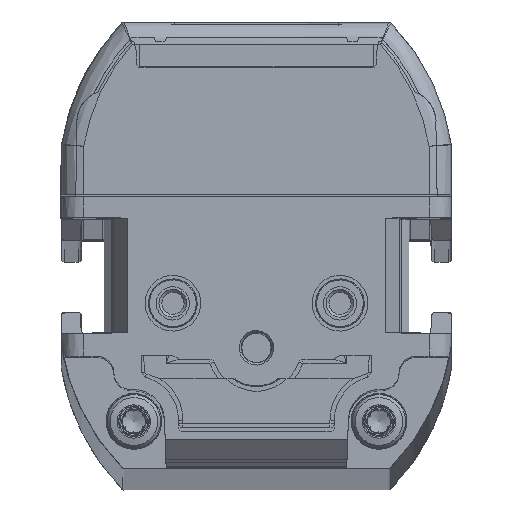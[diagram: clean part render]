
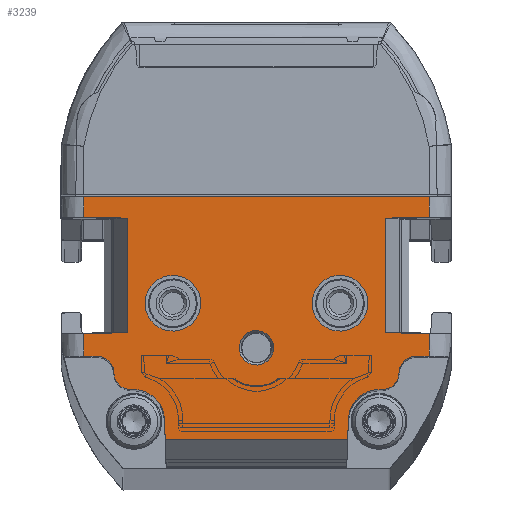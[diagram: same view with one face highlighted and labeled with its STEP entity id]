
A CAD part, top view. The second image highlights one B-rep face of the part: STEP entity #3239.
In plain terms, the highlighted planar face has unit normal (0, 0, 1).
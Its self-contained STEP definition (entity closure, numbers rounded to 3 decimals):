
#1178=FACE_BOUND('',#5343,.T.);
#1179=FACE_BOUND('',#5344,.T.);
#1180=FACE_BOUND('',#5345,.T.);
#1181=FACE_BOUND('',#5346,.T.);
#1900=CIRCLE('',#17502,2.5);
#1901=CIRCLE('',#17504,2.5);
#1902=CIRCLE('',#17506,1.55);
#1905=CIRCLE('',#17576,1.5);
#1906=CIRCLE('',#17577,1.5);
#1907=CIRCLE('',#17578,1.5);
#1908=CIRCLE('',#17579,1.5);
#1909=CIRCLE('',#17580,2.75);
#1910=CIRCLE('',#17581,2.75);
#3239=ADVANCED_FACE('',(#1178,#1179,#1180,#1181),#3754,.T.);
#3754=PLANE('',#17582);
#5343=EDGE_LOOP('',(#9281));
#5344=EDGE_LOOP('',(#9282));
#5345=EDGE_LOOP('',(#9283));
#5346=EDGE_LOOP('',(#9284,#9285,#9286,#9287,#9288,#9289,#9290,#9291,#9292,
#9293,#9294,#9295,#9296,#9297,#9298,#9299,#9300,#9301,#9302,#9303,#9304,
#9305,#9306,#9307,#9308,#9309));
#9281=ORIENTED_EDGE('',*,*,#13579,.T.);
#9282=ORIENTED_EDGE('',*,*,#13578,.F.);
#9283=ORIENTED_EDGE('',*,*,#13577,.F.);
#9284=ORIENTED_EDGE('',*,*,#13699,.F.);
#9285=ORIENTED_EDGE('',*,*,#13700,.T.);
#9286=ORIENTED_EDGE('',*,*,#13701,.T.);
#9287=ORIENTED_EDGE('',*,*,#13702,.T.);
#9288=ORIENTED_EDGE('',*,*,#13630,.T.);
#9289=ORIENTED_EDGE('',*,*,#13576,.T.);
#9290=ORIENTED_EDGE('',*,*,#13573,.T.);
#9291=ORIENTED_EDGE('',*,*,#13572,.T.);
#9292=ORIENTED_EDGE('',*,*,#13698,.T.);
#9293=ORIENTED_EDGE('',*,*,#13703,.F.);
#9294=ORIENTED_EDGE('',*,*,#13704,.F.);
#9295=ORIENTED_EDGE('',*,*,#13705,.F.);
#9296=ORIENTED_EDGE('',*,*,#13692,.T.);
#9297=ORIENTED_EDGE('',*,*,#13568,.F.);
#9298=ORIENTED_EDGE('',*,*,#13564,.T.);
#9299=ORIENTED_EDGE('',*,*,#13563,.F.);
#9300=ORIENTED_EDGE('',*,*,#13603,.T.);
#9301=ORIENTED_EDGE('',*,*,#13706,.F.);
#9302=ORIENTED_EDGE('',*,*,#13707,.T.);
#9303=ORIENTED_EDGE('',*,*,#13708,.T.);
#9304=ORIENTED_EDGE('',*,*,#13709,.F.);
#9305=ORIENTED_EDGE('',*,*,#13710,.F.);
#9306=ORIENTED_EDGE('',*,*,#13711,.F.);
#9307=ORIENTED_EDGE('',*,*,#13611,.T.);
#9308=ORIENTED_EDGE('',*,*,#13712,.F.);
#9309=ORIENTED_EDGE('',*,*,#13713,.F.);
#11499=VERTEX_POINT('',#29891);
#11500=VERTEX_POINT('',#29893);
#11501=VERTEX_POINT('',#29897);
#11502=VERTEX_POINT('',#29901);
#11504=VERTEX_POINT('',#29907);
#11506=VERTEX_POINT('',#29911);
#11507=VERTEX_POINT('',#29915);
#11508=VERTEX_POINT('',#29919);
#11509=VERTEX_POINT('',#29923);
#11510=VERTEX_POINT('',#29926);
#11511=VERTEX_POINT('',#29929);
#11528=VERTEX_POINT('',#30023);
#11533=VERTEX_POINT('',#30037);
#11534=VERTEX_POINT('',#30039);
#11547=VERTEX_POINT('',#30079);
#11581=VERTEX_POINT('',#30332);
#11585=VERTEX_POINT('',#30342);
#11586=VERTEX_POINT('',#30346);
#11587=VERTEX_POINT('',#30347);
#11588=VERTEX_POINT('',#30349);
#11589=VERTEX_POINT('',#30351);
#11590=VERTEX_POINT('',#30354);
#11591=VERTEX_POINT('',#30356);
#11592=VERTEX_POINT('',#30359);
#11593=VERTEX_POINT('',#30361);
#11594=VERTEX_POINT('',#30363);
#11595=VERTEX_POINT('',#30365);
#11596=VERTEX_POINT('',#30367);
#11597=VERTEX_POINT('',#30370);
#13563=EDGE_CURVE('',#11500,#11499,#15088,.T.);
#13564=EDGE_CURVE('',#11501,#11499,#15089,.T.);
#13568=EDGE_CURVE('',#11501,#11502,#15092,.T.);
#13572=EDGE_CURVE('',#11504,#11506,#15095,.T.);
#13573=EDGE_CURVE('',#11507,#11504,#15096,.T.);
#13576=EDGE_CURVE('',#11508,#11507,#15098,.T.);
#13577=EDGE_CURVE('',#11509,#11509,#1900,.T.);
#13578=EDGE_CURVE('',#11510,#11510,#1901,.T.);
#13579=EDGE_CURVE('',#11511,#11511,#1902,.T.);
#13603=EDGE_CURVE('',#11500,#11528,#15113,.T.);
#13611=EDGE_CURVE('',#11533,#11534,#15119,.T.);
#13630=EDGE_CURVE('',#11547,#11508,#15132,.T.);
#13692=EDGE_CURVE('',#11581,#11502,#15175,.T.);
#13698=EDGE_CURVE('',#11506,#11585,#15177,.T.);
#13699=EDGE_CURVE('',#11586,#11587,#15178,.T.);
#13700=EDGE_CURVE('',#11586,#11588,#1905,.T.);
#13701=EDGE_CURVE('',#11588,#11589,#1906,.T.);
#13702=EDGE_CURVE('',#11589,#11547,#15179,.T.);
#13703=EDGE_CURVE('',#11590,#11585,#15180,.T.);
#13704=EDGE_CURVE('',#11591,#11590,#15181,.T.);
#13705=EDGE_CURVE('',#11581,#11591,#15182,.T.);
#13706=EDGE_CURVE('',#11592,#11528,#15183,.T.);
#13707=EDGE_CURVE('',#11592,#11593,#1907,.T.);
#13708=EDGE_CURVE('',#11593,#11594,#1908,.T.);
#13709=EDGE_CURVE('',#11595,#11594,#15184,.T.);
#13710=EDGE_CURVE('',#11596,#11595,#1909,.T.);
#13711=EDGE_CURVE('',#11533,#11596,#15185,.T.);
#13712=EDGE_CURVE('',#11597,#11534,#15186,.T.);
#13713=EDGE_CURVE('',#11587,#11597,#1910,.T.);
#15088=LINE('',#29894,#16251);
#15089=LINE('',#29896,#16252);
#15092=LINE('',#29904,#16255);
#15095=LINE('',#29912,#16258);
#15096=LINE('',#29914,#16259);
#15098=LINE('',#29920,#16261);
#15113=LINE('',#30024,#16276);
#15119=LINE('',#30040,#16282);
#15132=LINE('',#30078,#16295);
#15175=LINE('',#30331,#16338);
#15177=LINE('',#30343,#16340);
#15178=LINE('',#30345,#16341);
#15179=LINE('',#30352,#16342);
#15180=LINE('',#30353,#16343);
#15181=LINE('',#30355,#16344);
#15182=LINE('',#30357,#16345);
#15183=LINE('',#30358,#16346);
#15184=LINE('',#30364,#16347);
#15185=LINE('',#30368,#16348);
#15186=LINE('',#30369,#16349);
#16251=VECTOR('',#20699,1.);
#16252=VECTOR('',#20702,1.);
#16255=VECTOR('',#20709,1.);
#16258=VECTOR('',#20716,1.);
#16259=VECTOR('',#20719,1.);
#16261=VECTOR('',#20725,1.);
#16276=VECTOR('',#20776,1.);
#16282=VECTOR('',#20790,1.);
#16295=VECTOR('',#20829,1.);
#16338=VECTOR('',#20940,1.);
#16340=VECTOR('',#20952,1.);
#16341=VECTOR('',#20955,1.);
#16342=VECTOR('',#20960,1.);
#16343=VECTOR('',#20961,1.);
#16344=VECTOR('',#20962,1.);
#16345=VECTOR('',#20963,1.);
#16346=VECTOR('',#20964,1.);
#16347=VECTOR('',#20969,1.);
#16348=VECTOR('',#20972,1.);
#16349=VECTOR('',#20973,1.);
#17502=AXIS2_PLACEMENT_3D('',#29922,#20728,#20729);
#17504=AXIS2_PLACEMENT_3D('',#29925,#20732,#20733);
#17506=AXIS2_PLACEMENT_3D('',#29928,#20736,#20737);
#17576=AXIS2_PLACEMENT_3D('',#30348,#20956,#20957);
#17577=AXIS2_PLACEMENT_3D('',#30350,#20958,#20959);
#17578=AXIS2_PLACEMENT_3D('',#30360,#20965,#20966);
#17579=AXIS2_PLACEMENT_3D('',#30362,#20967,#20968);
#17580=AXIS2_PLACEMENT_3D('',#30366,#20970,#20971);
#17581=AXIS2_PLACEMENT_3D('',#30371,#20974,#20975);
#17582=AXIS2_PLACEMENT_3D('',#30372,#20976,#20977);
#20699=DIRECTION('',(1.,0.017,0.));
#20702=DIRECTION('',(0.,-1.,0.));
#20709=DIRECTION('',(-1.,0.017,0.));
#20716=DIRECTION('',(1.,0.017,0.));
#20719=DIRECTION('',(0.,1.,0.));
#20725=DIRECTION('',(-1.,0.017,0.));
#20728=DIRECTION('',(0.,0.,1.));
#20729=DIRECTION('',(1.,0.,0.));
#20732=DIRECTION('',(0.,0.,1.));
#20733=DIRECTION('',(1.,0.,0.));
#20736=DIRECTION('',(0.,0.,-1.));
#20737=DIRECTION('',(1.,0.,0.));
#20776=DIRECTION('',(0.,-1.,0.));
#20790=DIRECTION('',(1.,0.,0.));
#20829=DIRECTION('',(0.,1.,0.));
#20940=DIRECTION('',(0.,-1.,0.));
#20952=DIRECTION('',(0.,1.,0.));
#20955=DIRECTION('',(-1.,0.,0.));
#20956=DIRECTION('',(0.,0.,1.));
#20957=DIRECTION('',(1.,0.,0.));
#20958=DIRECTION('',(0.,0.,-1.));
#20959=DIRECTION('',(1.,0.,0.));
#20960=DIRECTION('',(1.,0.,0.));
#20961=DIRECTION('',(1.,-0.017,0.));
#20962=DIRECTION('',(1.,0.,0.));
#20963=DIRECTION('',(1.,0.017,0.));
#20964=DIRECTION('',(-1.,0.,0.));
#20965=DIRECTION('',(0.,0.,-1.));
#20966=DIRECTION('',(1.,0.,0.));
#20967=DIRECTION('',(0.,0.,1.));
#20968=DIRECTION('',(1.,0.,0.));
#20969=DIRECTION('',(-1.,0.,0.));
#20970=DIRECTION('',(0.,0.,1.));
#20971=DIRECTION('',(1.,0.,0.));
#20972=DIRECTION('',(-0.035,0.999,0.));
#20973=DIRECTION('',(-0.035,-0.999,0.));
#20974=DIRECTION('',(0.,0.,1.));
#20975=DIRECTION('',(1.,0.,0.));
#20976=DIRECTION('',(0.,0.,1.));
#20977=DIRECTION('',(1.,0.,0.));
#29891=CARTESIAN_POINT('',(-11.55,12.107,1149.));
#29893=CARTESIAN_POINT('',(-15.5,12.038,1149.));
#29894=CARTESIAN_POINT('',(-17.709,11.999,1149.));
#29896=CARTESIAN_POINT('',(-11.55,0.,1149.));
#29897=CARTESIAN_POINT('',(-11.55,22.393,1149.));
#29901=CARTESIAN_POINT('',(-15.5,22.462,1149.));
#29904=CARTESIAN_POINT('',(-17.107,22.49,1149.));
#29907=CARTESIAN_POINT('',(11.55,22.393,1149.));
#29911=CARTESIAN_POINT('',(15.5,22.462,1149.));
#29912=CARTESIAN_POINT('',(-17.882,21.88,1149.));
#29914=CARTESIAN_POINT('',(11.55,0.,1149.));
#29915=CARTESIAN_POINT('',(11.55,12.107,1149.));
#29919=CARTESIAN_POINT('',(15.5,12.038,1149.));
#29920=CARTESIAN_POINT('',(-17.28,12.61,1149.));
#29922=CARTESIAN_POINT('',(-7.5,14.75,1149.));
#29923=CARTESIAN_POINT('',(-5.,14.75,1149.));
#29925=CARTESIAN_POINT('',(7.5,14.75,1149.));
#29926=CARTESIAN_POINT('',(10.,14.75,1149.));
#29928=CARTESIAN_POINT('',(0.,10.75,1149.));
#29929=CARTESIAN_POINT('',(1.55,10.75,1149.));
#30023=CARTESIAN_POINT('',(-15.5,10.,1149.));
#30024=CARTESIAN_POINT('',(-15.5,0.,1149.));
#30037=CARTESIAN_POINT('',(-8.189,2.5,1149.));
#30039=CARTESIAN_POINT('',(8.189,2.5,1149.));
#30040=CARTESIAN_POINT('',(-17.5,2.5,1149.));
#30078=CARTESIAN_POINT('',(15.5,0.,1149.));
#30079=CARTESIAN_POINT('',(15.5,10.,1149.));
#30331=CARTESIAN_POINT('',(-15.5,0.,1149.));
#30332=CARTESIAN_POINT('',(-15.5,24.317,1149.));
#30342=CARTESIAN_POINT('',(15.5,24.317,1149.));
#30343=CARTESIAN_POINT('',(15.5,0.,1149.));
#30345=CARTESIAN_POINT('',(23.25,7.,1149.));
#30346=CARTESIAN_POINT('',(11.3,7.,1149.));
#30347=CARTESIAN_POINT('',(11.002,7.,1149.));
#30348=CARTESIAN_POINT('',(11.3,8.5,1149.));
#30349=CARTESIAN_POINT('',(12.8,8.5,1149.));
#30350=CARTESIAN_POINT('',(14.3,8.5,1149.));
#30351=CARTESIAN_POINT('',(14.3,10.,1149.));
#30352=CARTESIAN_POINT('',(-17.5,10.,1149.));
#30353=CARTESIAN_POINT('',(-17.066,24.886,1149.));
#30354=CARTESIAN_POINT('',(13.025,24.36,1149.));
#30355=CARTESIAN_POINT('',(-17.5,24.36,1149.));
#30356=CARTESIAN_POINT('',(-13.025,24.36,1149.));
#30357=CARTESIAN_POINT('',(-17.924,24.275,1149.));
#30358=CARTESIAN_POINT('',(-17.5,10.,1149.));
#30359=CARTESIAN_POINT('',(-14.3,10.,1149.));
#30360=CARTESIAN_POINT('',(-14.3,8.5,1149.));
#30361=CARTESIAN_POINT('',(-12.8,8.5,1149.));
#30362=CARTESIAN_POINT('',(-11.3,8.5,1149.));
#30363=CARTESIAN_POINT('',(-11.3,7.,1149.));
#30364=CARTESIAN_POINT('',(-11.,7.,1149.));
#30365=CARTESIAN_POINT('',(-11.002,7.,1149.));
#30366=CARTESIAN_POINT('',(-11.002,4.25,1149.));
#30367=CARTESIAN_POINT('',(-8.253,4.346,1149.));
#30368=CARTESIAN_POINT('',(-8.25,4.25,1149.));
#30369=CARTESIAN_POINT('',(8.25,4.25,1149.));
#30370=CARTESIAN_POINT('',(8.253,4.346,1149.));
#30371=CARTESIAN_POINT('',(11.002,4.25,1149.));
#30372=CARTESIAN_POINT('',(-17.5,0.,1149.));
